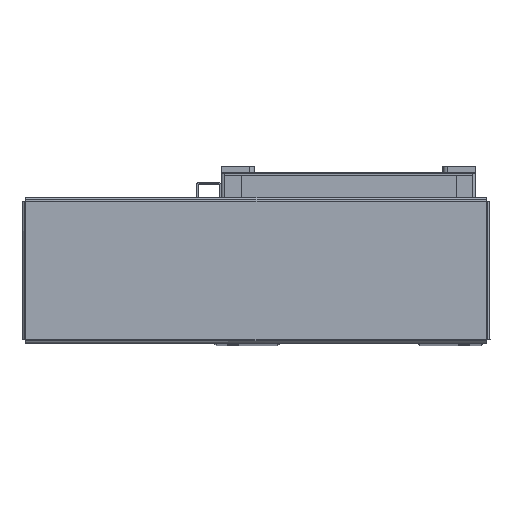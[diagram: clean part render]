
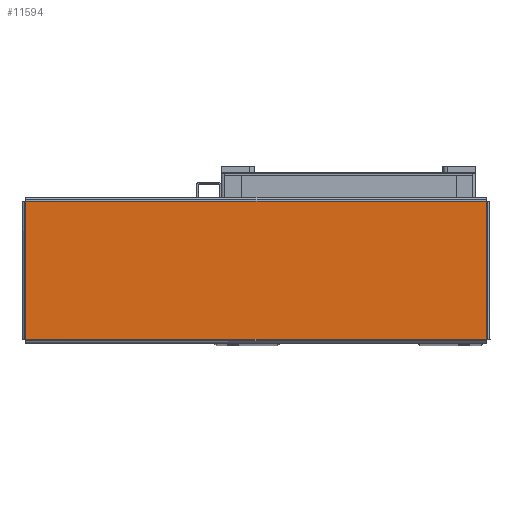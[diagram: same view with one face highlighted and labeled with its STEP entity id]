
A CAD part, top view. The second image highlights one B-rep face of the part: STEP entity #11594.
In plain terms, the highlighted planar face has unit normal (0, 0, 1) as drawn and (0, -1, 0) by its records, which use the part's own axes.
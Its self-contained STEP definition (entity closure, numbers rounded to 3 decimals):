
#1057 = ORIENTED_EDGE ( 'NONE', *, *, #38439, .T. ) ;
#1102 = ORIENTED_EDGE ( 'NONE', *, *, #38465, .T. ) ;
#1165 = ORIENTED_EDGE ( 'NONE', *, *, #38485, .T. ) ;
#1166 = ORIENTED_EDGE ( 'NONE', *, *, #38445, .T. ) ;
#11594 = ADVANCED_FACE ( 'NONE', ( #19152 ), #25875, .F. ) ;
#19152 = FACE_OUTER_BOUND ( 'NONE', #27663, .T. ) ;
#24072 = VERTEX_POINT ( 'NONE', #41485 ) ;
#24501 = VERTEX_POINT ( 'NONE', #41946 ) ;
#24560 = VERTEX_POINT ( 'NONE', #41908 ) ;
#24631 = VERTEX_POINT ( 'NONE', #48033 ) ;
#25869 = DIRECTION ( 'NONE',  ( 0., 0., 1. ) ) ;
#25875 = PLANE ( 'NONE',  #32751 ) ;
#25899 = CARTESIAN_POINT ( 'NONE',  ( 0., -1.5, 0. ) ) ;
#25901 = DIRECTION ( 'NONE',  ( 0., 1., 0. ) ) ;
#27663 = EDGE_LOOP ( 'NONE', ( #1057, #1165, #1102, #1166 ) ) ;
#32569 = LINE ( 'NONE', #34345, #32632 ) ;
#32632 = VECTOR ( 'NONE', #34347, 1000. ) ;
#32691 = LINE ( 'NONE', #34590, #32696 ) ;
#32696 = VECTOR ( 'NONE', #34541, 1000. ) ;
#32734 = VECTOR ( 'NONE', #34460, 1000. ) ;
#32744 = LINE ( 'NONE', #34434, #32758 ) ;
#32749 = LINE ( 'NONE', #34485, #32734 ) ;
#32751 = AXIS2_PLACEMENT_3D ( 'NONE', #25899, #25901, #25869 ) ;
#32758 = VECTOR ( 'NONE', #34427, 1000. ) ;
#34345 = CARTESIAN_POINT ( 'NONE',  ( 139.263, -1.5, -41.793 ) ) ;
#34347 = DIRECTION ( 'NONE',  ( 0., 0., 1. ) ) ;
#34427 = DIRECTION ( 'NONE',  ( 1., 0., 0. ) ) ;
#34434 = CARTESIAN_POINT ( 'NONE',  ( -139.293, -1.5, -41.763 ) ) ;
#34460 = DIRECTION ( 'NONE',  ( 0., 0., -1. ) ) ;
#34485 = CARTESIAN_POINT ( 'NONE',  ( -139.263, -1.5, 41.793 ) ) ;
#34541 = DIRECTION ( 'NONE',  ( -1., 0., 0. ) ) ;
#34590 = CARTESIAN_POINT ( 'NONE',  ( 139.293, -1.5, 41.763 ) ) ;
#38439 = EDGE_CURVE ( 'NONE', #24072, #24501, #32569, .T. ) ;
#38445 = EDGE_CURVE ( 'NONE', #24631, #24072, #32744, .T. ) ;
#38465 = EDGE_CURVE ( 'NONE', #24560, #24631, #32749, .T. ) ;
#38485 = EDGE_CURVE ( 'NONE', #24501, #24560, #32691, .T. ) ;
#41485 = CARTESIAN_POINT ( 'NONE',  ( 139.263, -1.5, -41.763 ) ) ;
#41908 = CARTESIAN_POINT ( 'NONE',  ( -139.263, -1.5, 41.763 ) ) ;
#41946 = CARTESIAN_POINT ( 'NONE',  ( 139.263, -1.5, 41.763 ) ) ;
#48033 = CARTESIAN_POINT ( 'NONE',  ( -139.263, -1.5, -41.763 ) ) ;
